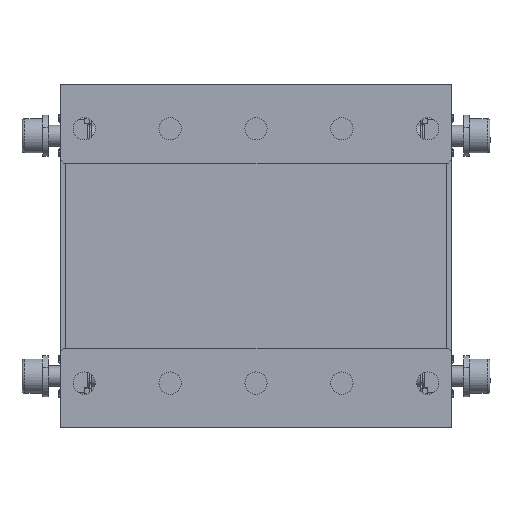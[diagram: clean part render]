
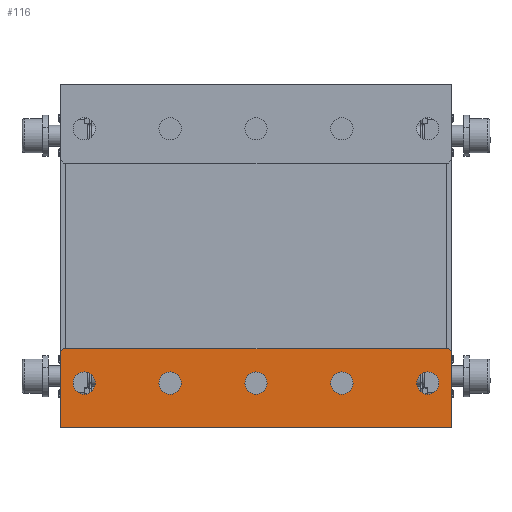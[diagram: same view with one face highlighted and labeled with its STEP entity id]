
A CAD part, top view. The second image highlights one B-rep face of the part: STEP entity #116.
In plain terms, the highlighted planar face has unit normal (0, 0, 1).
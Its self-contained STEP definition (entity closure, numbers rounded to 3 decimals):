
#87 = EDGE_CURVE('',#88,#88,#90,.T.);
#88 = VERTEX_POINT('',#89);
#89 = CARTESIAN_POINT('',(-21.75,-37.,30.));
#90 = CIRCLE('',#91,3.25);
#91 = AXIS2_PLACEMENT_3D('',#92,#93,#94);
#92 = CARTESIAN_POINT('',(-25.,-37.,30.));
#93 = DIRECTION('',(0.,0.,1.));
#94 = DIRECTION('',(1.,0.,-0.));
#116 = ADVANCED_FACE('',(#117,#167,#178,#189,#200,#203),#214,.F.);
#117 = FACE_BOUND('',#118,.F.);
#118 = EDGE_LOOP('',(#119,#129,#137,#145,#153,#161));
#119 = ORIENTED_EDGE('',*,*,#120,.F.);
#120 = EDGE_CURVE('',#121,#123,#125,.T.);
#121 = VERTEX_POINT('',#122);
#122 = CARTESIAN_POINT('',(57.,-50.,30.));
#123 = VERTEX_POINT('',#124);
#124 = CARTESIAN_POINT('',(57.,-28.,30.));
#125 = LINE('',#126,#127);
#126 = CARTESIAN_POINT('',(57.,-50.,30.));
#127 = VECTOR('',#128,1.);
#128 = DIRECTION('',(0.,1.,0.));
#129 = ORIENTED_EDGE('',*,*,#130,.T.);
#130 = EDGE_CURVE('',#121,#131,#133,.T.);
#131 = VERTEX_POINT('',#132);
#132 = CARTESIAN_POINT('',(-57.,-50.,30.));
#133 = LINE('',#134,#135);
#134 = CARTESIAN_POINT('',(0.,-50.,30.));
#135 = VECTOR('',#136,1.);
#136 = DIRECTION('',(-1.,0.,0.));
#137 = ORIENTED_EDGE('',*,*,#138,.F.);
#138 = EDGE_CURVE('',#139,#131,#141,.T.);
#139 = VERTEX_POINT('',#140);
#140 = CARTESIAN_POINT('',(-57.,-28.,30.));
#141 = LINE('',#142,#143);
#142 = CARTESIAN_POINT('',(-57.,-28.,30.));
#143 = VECTOR('',#144,1.);
#144 = DIRECTION('',(0.,-1.,0.));
#145 = ORIENTED_EDGE('',*,*,#146,.F.);
#146 = EDGE_CURVE('',#147,#139,#149,.T.);
#147 = VERTEX_POINT('',#148);
#148 = CARTESIAN_POINT('',(-56.,-27.,30.));
#149 = LINE('',#150,#151);
#150 = CARTESIAN_POINT('',(-57.,-28.,30.));
#151 = VECTOR('',#152,1.);
#152 = DIRECTION('',(-0.707,-0.707,-0.));
#153 = ORIENTED_EDGE('',*,*,#154,.F.);
#154 = EDGE_CURVE('',#155,#147,#157,.T.);
#155 = VERTEX_POINT('',#156);
#156 = CARTESIAN_POINT('',(56.,-27.,30.));
#157 = LINE('',#158,#159);
#158 = CARTESIAN_POINT('',(0.,-27.,30.));
#159 = VECTOR('',#160,1.);
#160 = DIRECTION('',(-1.,0.,0.));
#161 = ORIENTED_EDGE('',*,*,#162,.F.);
#162 = EDGE_CURVE('',#123,#155,#163,.T.);
#163 = LINE('',#164,#165);
#164 = CARTESIAN_POINT('',(56.,-27.,30.));
#165 = VECTOR('',#166,1.);
#166 = DIRECTION('',(-0.707,0.707,-0.));
#167 = FACE_BOUND('',#168,.F.);
#168 = EDGE_LOOP('',(#169));
#169 = ORIENTED_EDGE('',*,*,#170,.F.);
#170 = EDGE_CURVE('',#171,#171,#173,.T.);
#171 = VERTEX_POINT('',#172);
#172 = CARTESIAN_POINT('',(53.25,-37.,30.));
#173 = CIRCLE('',#174,3.25);
#174 = AXIS2_PLACEMENT_3D('',#175,#176,#177);
#175 = CARTESIAN_POINT('',(50.,-37.,30.));
#176 = DIRECTION('',(0.,0.,-1.));
#177 = DIRECTION('',(1.,0.,0.));
#178 = FACE_BOUND('',#179,.F.);
#179 = EDGE_LOOP('',(#180));
#180 = ORIENTED_EDGE('',*,*,#181,.F.);
#181 = EDGE_CURVE('',#182,#182,#184,.T.);
#182 = VERTEX_POINT('',#183);
#183 = CARTESIAN_POINT('',(28.25,-37.,30.));
#184 = CIRCLE('',#185,3.25);
#185 = AXIS2_PLACEMENT_3D('',#186,#187,#188);
#186 = CARTESIAN_POINT('',(25.,-37.,30.));
#187 = DIRECTION('',(0.,0.,-1.));
#188 = DIRECTION('',(1.,0.,0.));
#189 = FACE_BOUND('',#190,.F.);
#190 = EDGE_LOOP('',(#191));
#191 = ORIENTED_EDGE('',*,*,#192,.F.);
#192 = EDGE_CURVE('',#193,#193,#195,.T.);
#193 = VERTEX_POINT('',#194);
#194 = CARTESIAN_POINT('',(3.25,-37.,30.));
#195 = CIRCLE('',#196,3.25);
#196 = AXIS2_PLACEMENT_3D('',#197,#198,#199);
#197 = CARTESIAN_POINT('',(0.,-37.,30.));
#198 = DIRECTION('',(0.,0.,-1.));
#199 = DIRECTION('',(1.,0.,0.));
#200 = FACE_BOUND('',#201,.F.);
#201 = EDGE_LOOP('',(#202));
#202 = ORIENTED_EDGE('',*,*,#87,.T.);
#203 = FACE_BOUND('',#204,.F.);
#204 = EDGE_LOOP('',(#205));
#205 = ORIENTED_EDGE('',*,*,#206,.F.);
#206 = EDGE_CURVE('',#207,#207,#209,.T.);
#207 = VERTEX_POINT('',#208);
#208 = CARTESIAN_POINT('',(-46.75,-37.,30.));
#209 = CIRCLE('',#210,3.25);
#210 = AXIS2_PLACEMENT_3D('',#211,#212,#213);
#211 = CARTESIAN_POINT('',(-50.,-37.,30.));
#212 = DIRECTION('',(0.,0.,-1.));
#213 = DIRECTION('',(1.,0.,0.));
#214 = PLANE('',#215);
#215 = AXIS2_PLACEMENT_3D('',#216,#217,#218);
#216 = CARTESIAN_POINT('',(0.,0.,30.));
#217 = DIRECTION('',(0.,0.,-1.));
#218 = DIRECTION('',(-1.,0.,0.));
